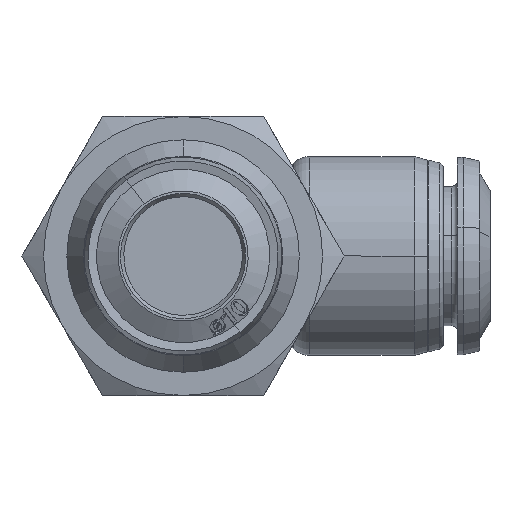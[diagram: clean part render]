
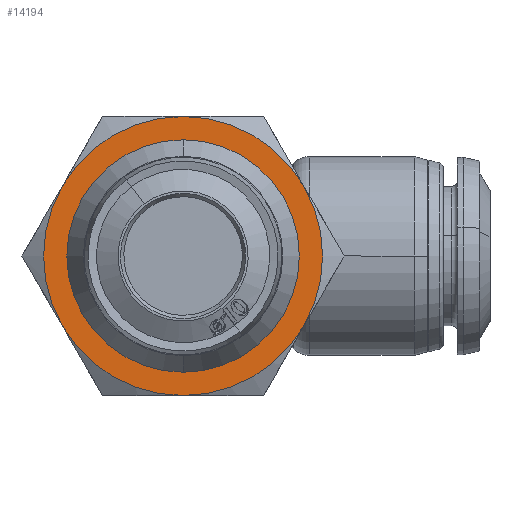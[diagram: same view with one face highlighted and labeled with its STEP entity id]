
A CAD part, front view. The second image highlights one B-rep face of the part: STEP entity #14194.
In plain terms, the highlighted planar face has unit normal (0, -1, 0).
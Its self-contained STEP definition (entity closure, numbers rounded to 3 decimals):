
#410 = AXIS2_PLACEMENT_3D ( 'NONE', #3183, #8705, #2133 ) ;
#520 = CIRCLE ( 'NONE', #2979, 12. ) ;
#536 = VERTEX_POINT ( 'NONE', #5413 ) ;
#588 = AXIS2_PLACEMENT_3D ( 'NONE', #9838, #3263, #10958 ) ;
#780 = DIRECTION ( 'NONE',  ( 0., 1., 0. ) ) ;
#808 = DIRECTION ( 'NONE',  ( 0., 0., -1. ) ) ;
#838 = CARTESIAN_POINT ( 'NONE',  ( 0., -29.626, 0. ) ) ;
#1004 = PLANE ( 'NONE',  #410 ) ;
#1013 = CIRCLE ( 'NONE', #4904, 12. ) ;
#1043 = ORIENTED_EDGE ( 'NONE', *, *, #9179, .T. ) ;
#1048 = ORIENTED_EDGE ( 'NONE', *, *, #12780, .T. ) ;
#1307 = CARTESIAN_POINT ( 'NONE',  ( 0., -29.626, 0. ) ) ;
#1742 = VERTEX_POINT ( 'NONE', #10396 ) ;
#1928 = CARTESIAN_POINT ( 'NONE',  ( 0., -29.626, 10. ) ) ;
#1949 = ORIENTED_EDGE ( 'NONE', *, *, #5571, .T. ) ;
#1958 = DIRECTION ( 'NONE',  ( 0., 0., -1. ) ) ;
#2087 = VERTEX_POINT ( 'NONE', #1928 ) ;
#2133 = DIRECTION ( 'NONE',  ( 0., 0., -1. ) ) ;
#2295 = CIRCLE ( 'NONE', #4922, 10. ) ;
#2335 = CARTESIAN_POINT ( 'NONE',  ( 10.392, -29.626, 6. ) ) ;
#2348 = CARTESIAN_POINT ( 'NONE',  ( 0., -29.626, 0. ) ) ;
#2372 = ORIENTED_EDGE ( 'NONE', *, *, #7602, .T. ) ;
#2422 = DIRECTION ( 'NONE',  ( 0., 0., -1. ) ) ;
#2482 = CIRCLE ( 'NONE', #10437, 10. ) ;
#2515 = VERTEX_POINT ( 'NONE', #5543 ) ;
#2553 = FACE_OUTER_BOUND ( 'NONE', #13104, .T. ) ;
#2979 = AXIS2_PLACEMENT_3D ( 'NONE', #838, #8536, #1958 ) ;
#3094 = ORIENTED_EDGE ( 'NONE', *, *, #11968, .T. ) ;
#3183 = CARTESIAN_POINT ( 'NONE',  ( 0., -29.626, 0. ) ) ;
#3263 = DIRECTION ( 'NONE',  ( 0., -1., 0. ) ) ;
#3303 = EDGE_LOOP ( 'NONE', ( #2372, #10640 ) ) ;
#3453 = DIRECTION ( 'NONE',  ( 0., 0., -1. ) ) ;
#3642 = ORIENTED_EDGE ( 'NONE', *, *, #4205, .T. ) ;
#4036 = EDGE_CURVE ( 'NONE', #536, #4949, #5958, .T. ) ;
#4205 = EDGE_CURVE ( 'NONE', #13386, #11210, #13720, .T. ) ;
#4409 = VERTEX_POINT ( 'NONE', #6089 ) ;
#4904 = AXIS2_PLACEMENT_3D ( 'NONE', #14003, #7389, #808 ) ;
#4922 = AXIS2_PLACEMENT_3D ( 'NONE', #7358, #780, #8484 ) ;
#4949 = VERTEX_POINT ( 'NONE', #2335 ) ;
#5057 = CIRCLE ( 'NONE', #588, 12. ) ;
#5267 = CARTESIAN_POINT ( 'NONE',  ( 0., -29.626, 0. ) ) ;
#5339 = EDGE_CURVE ( 'NONE', #4409, #2087, #2482, .T. ) ;
#5373 = CARTESIAN_POINT ( 'NONE',  ( 0., -29.626, 0. ) ) ;
#5413 = CARTESIAN_POINT ( 'NONE',  ( 10.392, -29.626, -6. ) ) ;
#5543 = CARTESIAN_POINT ( 'NONE',  ( 0., -29.626, 12. ) ) ;
#5571 = EDGE_CURVE ( 'NONE', #2515, #1742, #5057, .T. ) ;
#5826 = FACE_BOUND ( 'NONE', #3303, .T. ) ;
#5958 = CIRCLE ( 'NONE', #14228, 12. ) ;
#6089 = CARTESIAN_POINT ( 'NONE',  ( 0., -29.626, -10. ) ) ;
#6380 = DIRECTION ( 'NONE',  ( 0., 0., -1. ) ) ;
#6476 = DIRECTION ( 'NONE',  ( 0., 0., -1. ) ) ;
#6575 = AXIS2_PLACEMENT_3D ( 'NONE', #2348, #10027, #3453 ) ;
#6926 = CARTESIAN_POINT ( 'NONE',  ( 0., -29.626, -12. ) ) ;
#7358 = CARTESIAN_POINT ( 'NONE',  ( 0., -29.626, 0. ) ) ;
#7389 = DIRECTION ( 'NONE',  ( 0., -1., 0. ) ) ;
#7602 = EDGE_CURVE ( 'NONE', #2087, #4409, #2295, .T. ) ;
#8484 = DIRECTION ( 'NONE',  ( 0., 0., -1. ) ) ;
#8536 = DIRECTION ( 'NONE',  ( 0., -1., 0. ) ) ;
#8705 = DIRECTION ( 'NONE',  ( 0., -1., 0. ) ) ;
#8952 = ORIENTED_EDGE ( 'NONE', *, *, #4036, .T. ) ;
#9015 = DIRECTION ( 'NONE',  ( 0., 1., 0. ) ) ;
#9179 = EDGE_CURVE ( 'NONE', #11210, #536, #11055, .T. ) ;
#9796 = CARTESIAN_POINT ( 'NONE',  ( -10.392, -29.626, -6. ) ) ;
#9838 = CARTESIAN_POINT ( 'NONE',  ( 0., -29.626, 0. ) ) ;
#10027 = DIRECTION ( 'NONE',  ( 0., -1., 0. ) ) ;
#10396 = CARTESIAN_POINT ( 'NONE',  ( -10.392, -29.626, 6. ) ) ;
#10437 = AXIS2_PLACEMENT_3D ( 'NONE', #1307, #9015, #2422 ) ;
#10640 = ORIENTED_EDGE ( 'NONE', *, *, #5339, .T. ) ;
#10958 = DIRECTION ( 'NONE',  ( 0., 0., -1. ) ) ;
#11055 = CIRCLE ( 'NONE', #12471, 12. ) ;
#11210 = VERTEX_POINT ( 'NONE', #6926 ) ;
#11968 = EDGE_CURVE ( 'NONE', #4949, #2515, #520, .T. ) ;
#12471 = AXIS2_PLACEMENT_3D ( 'NONE', #5267, #12985, #6380 ) ;
#12780 = EDGE_CURVE ( 'NONE', #1742, #13386, #1013, .T. ) ;
#12985 = DIRECTION ( 'NONE',  ( 0., -1., 0. ) ) ;
#13083 = DIRECTION ( 'NONE',  ( 0., -1., 0. ) ) ;
#13104 = EDGE_LOOP ( 'NONE', ( #1043, #8952, #3094, #1949, #1048, #3642 ) ) ;
#13386 = VERTEX_POINT ( 'NONE', #9796 ) ;
#13720 = CIRCLE ( 'NONE', #6575, 12. ) ;
#14003 = CARTESIAN_POINT ( 'NONE',  ( 0., -29.626, 0. ) ) ;
#14194 = ADVANCED_FACE ( 'NONE', ( #5826, #2553 ), #1004, .T. ) ;
#14228 = AXIS2_PLACEMENT_3D ( 'NONE', #5373, #13083, #6476 ) ;
